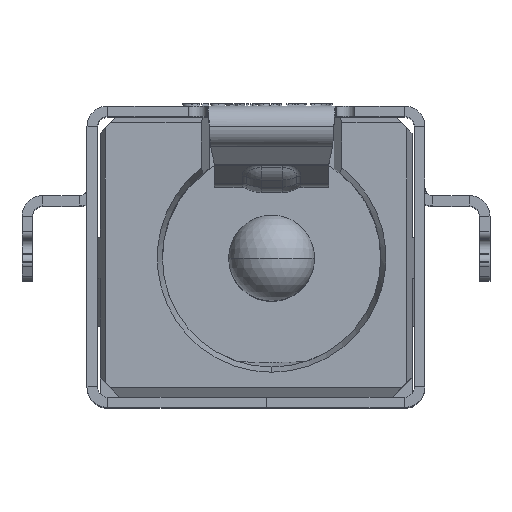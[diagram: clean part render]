
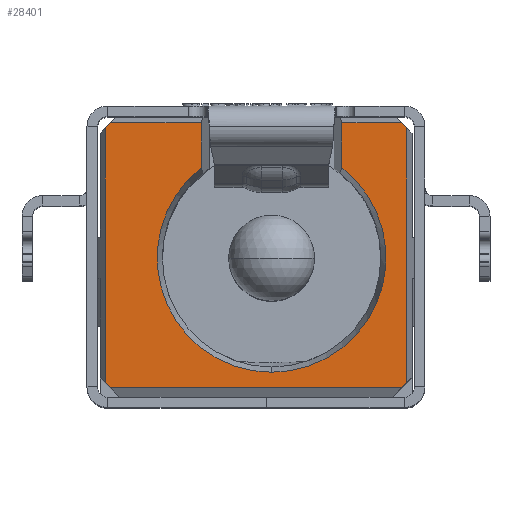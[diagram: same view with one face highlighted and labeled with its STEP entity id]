
A CAD part, top view. The second image highlights one B-rep face of the part: STEP entity #28401.
In plain terms, the highlighted planar face has unit normal (0, 0, 1).
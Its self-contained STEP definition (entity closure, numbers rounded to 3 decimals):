
#99 = EDGE_CURVE ( 'NONE', #13150, #21939, #9197, .T. ) ;
#158 = CARTESIAN_POINT ( 'NONE',  ( 2.5, -2.5, 11. ) ) ;
#161 = CARTESIAN_POINT ( 'NONE',  ( 0., 0., 11. ) ) ;
#314 = DIRECTION ( 'NONE',  ( 0., 0., -1. ) ) ;
#487 = VECTOR ( 'NONE', #18125, 1000. ) ;
#851 = VERTEX_POINT ( 'NONE', #6225 ) ;
#1212 = LINE ( 'NONE', #25810, #487 ) ;
#1267 = LINE ( 'NONE', #11478, #11421 ) ;
#1864 = LINE ( 'NONE', #8895, #26982 ) ;
#2436 = VERTEX_POINT ( 'NONE', #29136 ) ;
#2617 = CARTESIAN_POINT ( 'NONE',  ( 1.35, 1.737, 11. ) ) ;
#2706 = VECTOR ( 'NONE', #30759, 1000. ) ;
#3076 = ORIENTED_EDGE ( 'NONE', *, *, #20812, .T. ) ;
#3746 = CARTESIAN_POINT ( 'NONE',  ( 0., -2.2, 11. ) ) ;
#4643 = EDGE_CURVE ( 'NONE', #13311, #24001, #19376, .T. ) ;
#4728 = CARTESIAN_POINT ( 'NONE',  ( 1.35, 2.6, 11. ) ) ;
#4838 = ORIENTED_EDGE ( 'NONE', *, *, #16095, .T. ) ;
#5438 = DIRECTION ( 'NONE',  ( 0.614, 0.79, 0. ) ) ;
#5718 = ORIENTED_EDGE ( 'NONE', *, *, #21048, .T. ) ;
#6056 = CARTESIAN_POINT ( 'NONE',  ( 2.5, 2.6, 11. ) ) ;
#6091 = VECTOR ( 'NONE', #24494, 1000. ) ;
#6121 = EDGE_CURVE ( 'NONE', #29841, #16676, #7595, .T. ) ;
#6186 = CARTESIAN_POINT ( 'NONE',  ( 0., 0., 11. ) ) ;
#6199 = DIRECTION ( 'NONE',  ( 0.707, -0.707, 0. ) ) ;
#6225 = CARTESIAN_POINT ( 'NONE',  ( -3.2, 2.5, 11. ) ) ;
#6590 = ORIENTED_EDGE ( 'NONE', *, *, #30179, .F. ) ;
#6645 = CARTESIAN_POINT ( 'NONE',  ( -1.35, 2.6, 11. ) ) ;
#7421 = ORIENTED_EDGE ( 'NONE', *, *, #20482, .T. ) ;
#7548 = CARTESIAN_POINT ( 'NONE',  ( 2.6, -2.4, 11. ) ) ;
#7579 = ORIENTED_EDGE ( 'NONE', *, *, #9143, .T. ) ;
#7595 = LINE ( 'NONE', #17312, #12216 ) ;
#7995 = DIRECTION ( 'NONE',  ( 0., 0., -1. ) ) ;
#8426 = ORIENTED_EDGE ( 'NONE', *, *, #4643, .F. ) ;
#8539 = CARTESIAN_POINT ( 'NONE',  ( -1.35, 1.737, 11. ) ) ;
#8664 = ORIENTED_EDGE ( 'NONE', *, *, #20485, .T. ) ;
#8848 = VECTOR ( 'NONE', #31073, 1000. ) ;
#8895 = CARTESIAN_POINT ( 'NONE',  ( -3.2, 2.5, 11. ) ) ;
#9028 = LINE ( 'NONE', #28845, #2706 ) ;
#9143 = EDGE_CURVE ( 'NONE', #22606, #24001, #24092, .T. ) ;
#9197 = LINE ( 'NONE', #4728, #22930 ) ;
#9198 = FACE_OUTER_BOUND ( 'NONE', #19728, .T. ) ;
#10378 = CARTESIAN_POINT ( 'NONE',  ( 0., 0., 11. ) ) ;
#10625 = VERTEX_POINT ( 'NONE', #6056 ) ;
#10883 = EDGE_CURVE ( 'NONE', #21325, #16676, #9028, .T. ) ;
#11421 = VECTOR ( 'NONE', #21211, 1000. ) ;
#11478 = CARTESIAN_POINT ( 'NONE',  ( -3.2, 2.5, 11. ) ) ;
#11636 = CARTESIAN_POINT ( 'NONE',  ( 2.6, 2.5, 11. ) ) ;
#12216 = VECTOR ( 'NONE', #22111, 1000. ) ;
#12449 = CARTESIAN_POINT ( 'NONE',  ( -3.1, 2.6, 11. ) ) ;
#12795 = VERTEX_POINT ( 'NONE', #17682 ) ;
#13150 = VERTEX_POINT ( 'NONE', #23848 ) ;
#13229 = ORIENTED_EDGE ( 'NONE', *, *, #6121, .F. ) ;
#13311 = VERTEX_POINT ( 'NONE', #15359 ) ;
#13370 = AXIS2_PLACEMENT_3D ( 'NONE', #161, #314, #14709 ) ;
#14424 = ORIENTED_EDGE ( 'NONE', *, *, #24871, .T. ) ;
#14636 = DIRECTION ( 'NONE',  ( 0., -1., 0. ) ) ;
#14709 = DIRECTION ( 'NONE',  ( 0.614, 0.79, 0. ) ) ;
#14967 = AXIS2_PLACEMENT_3D ( 'NONE', #10378, #7995, #5438 ) ;
#15359 = CARTESIAN_POINT ( 'NONE',  ( -1.35, 2.6, 11. ) ) ;
#16095 = EDGE_CURVE ( 'NONE', #29841, #2436, #1212, .T. ) ;
#16378 = DIRECTION ( 'NONE',  ( 0., 0., 1. ) ) ;
#16634 = VERTEX_POINT ( 'NONE', #12449 ) ;
#16676 = VERTEX_POINT ( 'NONE', #158 ) ;
#16737 = ORIENTED_EDGE ( 'NONE', *, *, #10883, .T. ) ;
#17161 = VECTOR ( 'NONE', #30342, 1000. ) ;
#17312 = CARTESIAN_POINT ( 'NONE',  ( 2.6, -2.4, 11. ) ) ;
#17495 = VECTOR ( 'NONE', #26283, 1000. ) ;
#17682 = CARTESIAN_POINT ( 'NONE',  ( -3.2, -2.4, 11. ) ) ;
#18125 = DIRECTION ( 'NONE',  ( 0., 1., 0. ) ) ;
#18289 = DIRECTION ( 'NONE',  ( 1., 0., 0. ) ) ;
#18401 = ORIENTED_EDGE ( 'NONE', *, *, #25551, .T. ) ;
#18897 = ORIENTED_EDGE ( 'NONE', *, *, #99, .T. ) ;
#19376 = LINE ( 'NONE', #29147, #6091 ) ;
#19728 = EDGE_LOOP ( 'NONE', ( #8426, #7421, #6590, #5718, #18401, #16737, #13229, #4838, #14424, #8664, #18897, #3076, #7579 ) ) ;
#19750 = AXIS2_PLACEMENT_3D ( 'NONE', #6186, #16378, #18289 ) ;
#20482 = EDGE_CURVE ( 'NONE', #13311, #16634, #28516, .T. ) ;
#20485 = EDGE_CURVE ( 'NONE', #10625, #13150, #23885, .T. ) ;
#20562 = CIRCLE ( 'NONE', #14967, 2.2 ) ;
#20709 = DIRECTION ( 'NONE',  ( 0.707, 0.707, 0. ) ) ;
#20812 = EDGE_CURVE ( 'NONE', #21939, #22606, #20562, .T. ) ;
#21048 = EDGE_CURVE ( 'NONE', #851, #12795, #1267, .T. ) ;
#21211 = DIRECTION ( 'NONE',  ( 0., -1., 0. ) ) ;
#21304 = CARTESIAN_POINT ( 'NONE',  ( 2.5, 2.6, 11. ) ) ;
#21325 = VERTEX_POINT ( 'NONE', #29677 ) ;
#21939 = VERTEX_POINT ( 'NONE', #2617 ) ;
#22111 = DIRECTION ( 'NONE',  ( -0.707, -0.707, 0. ) ) ;
#22606 = VERTEX_POINT ( 'NONE', #3746 ) ;
#22930 = VECTOR ( 'NONE', #14636, 1000. ) ;
#23590 = CARTESIAN_POINT ( 'NONE',  ( -3.2, -2.4, 11. ) ) ;
#23848 = CARTESIAN_POINT ( 'NONE',  ( 1.35, 2.6, 11. ) ) ;
#23885 = LINE ( 'NONE', #21304, #8848 ) ;
#24001 = VERTEX_POINT ( 'NONE', #8539 ) ;
#24092 = CIRCLE ( 'NONE', #13370, 2.2 ) ;
#24494 = DIRECTION ( 'NONE',  ( 0., -1., 0. ) ) ;
#24871 = EDGE_CURVE ( 'NONE', #2436, #10625, #30655, .T. ) ;
#25551 = EDGE_CURVE ( 'NONE', #12795, #21325, #28068, .T. ) ;
#25810 = CARTESIAN_POINT ( 'NONE',  ( 2.6, -2.4, 11. ) ) ;
#25862 = VECTOR ( 'NONE', #6199, 1000. ) ;
#26283 = DIRECTION ( 'NONE',  ( -1., 0., 0. ) ) ;
#26982 = VECTOR ( 'NONE', #20709, 1000. ) ;
#28068 = LINE ( 'NONE', #23590, #25862 ) ;
#28401 = ADVANCED_FACE ( 'NONE', ( #9198 ), #31246, .T. ) ;
#28516 = LINE ( 'NONE', #6645, #17495 ) ;
#28845 = CARTESIAN_POINT ( 'NONE',  ( -3.1, -2.5, 11. ) ) ;
#29136 = CARTESIAN_POINT ( 'NONE',  ( 2.6, 2.5, 11. ) ) ;
#29147 = CARTESIAN_POINT ( 'NONE',  ( -1.35, 2.6, 11. ) ) ;
#29677 = CARTESIAN_POINT ( 'NONE',  ( -3.1, -2.5, 11. ) ) ;
#29841 = VERTEX_POINT ( 'NONE', #7548 ) ;
#30179 = EDGE_CURVE ( 'NONE', #851, #16634, #1864, .T. ) ;
#30342 = DIRECTION ( 'NONE',  ( -0.707, 0.707, 0. ) ) ;
#30655 = LINE ( 'NONE', #11636, #17161 ) ;
#30759 = DIRECTION ( 'NONE',  ( 1., 0., 0. ) ) ;
#31073 = DIRECTION ( 'NONE',  ( -1., 0., 0. ) ) ;
#31246 = PLANE ( 'NONE',  #19750 ) ;
